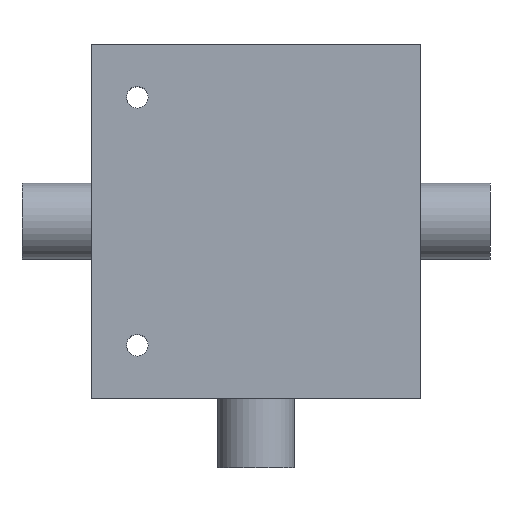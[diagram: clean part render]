
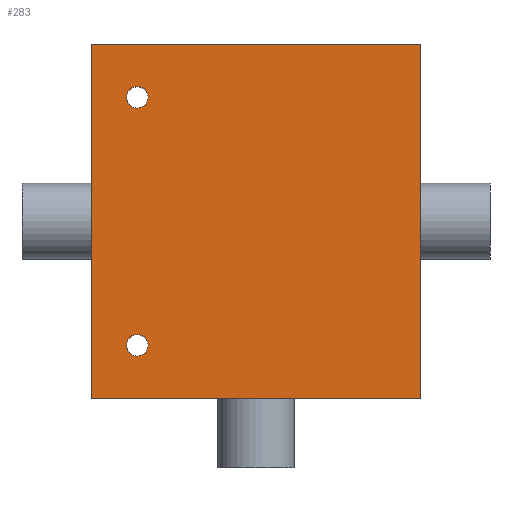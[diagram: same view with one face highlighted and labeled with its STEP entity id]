
A CAD part, top view. The second image highlights one B-rep face of the part: STEP entity #283.
In plain terms, the highlighted planar face has unit normal (0, 0, 1).
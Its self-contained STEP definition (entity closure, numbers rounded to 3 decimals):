
#24 = VERTEX_POINT('',#25);
#25 = CARTESIAN_POINT('',(-40.4,-43.45,29.9));
#32 = PLANE('',#33);
#33 = AXIS2_PLACEMENT_3D('',#34,#35,#36);
#34 = CARTESIAN_POINT('',(-40.4,-43.45,-29.9));
#35 = DIRECTION('',(1.,0.,0.));
#36 = DIRECTION('',(0.,0.,1.));
#44 = PLANE('',#45);
#45 = AXIS2_PLACEMENT_3D('',#46,#47,#48);
#46 = CARTESIAN_POINT('',(-40.4,-43.45,-29.9));
#47 = DIRECTION('',(0.,1.,0.));
#48 = DIRECTION('',(0.,0.,1.));
#85 = VERTEX_POINT('',#86);
#86 = CARTESIAN_POINT('',(-40.4,43.45,29.9));
#100 = PLANE('',#101);
#101 = AXIS2_PLACEMENT_3D('',#102,#103,#104);
#102 = CARTESIAN_POINT('',(-40.4,43.45,-29.9));
#103 = DIRECTION('',(0.,1.,0.));
#104 = DIRECTION('',(0.,0.,1.));
#112 = EDGE_CURVE('',#24,#85,#113,.T.);
#113 = SURFACE_CURVE('',#114,(#118,#125),.PCURVE_S1.);
#114 = LINE('',#115,#116);
#115 = CARTESIAN_POINT('',(-40.4,-43.45,29.9));
#116 = VECTOR('',#117,1.);
#117 = DIRECTION('',(0.,1.,0.));
#118 = PCURVE('',#32,#119);
#119 = DEFINITIONAL_REPRESENTATION('',(#120),#124);
#120 = LINE('',#121,#122);
#121 = CARTESIAN_POINT('',(59.8,0.));
#122 = VECTOR('',#123,1.);
#123 = DIRECTION('',(0.,-1.));
#124 = ( GEOMETRIC_REPRESENTATION_CONTEXT(2) 
PARAMETRIC_REPRESENTATION_CONTEXT() REPRESENTATION_CONTEXT('2D SPACE',''
  ) );
#125 = PCURVE('',#126,#131);
#126 = PLANE('',#127);
#127 = AXIS2_PLACEMENT_3D('',#128,#129,#130);
#128 = CARTESIAN_POINT('',(-40.4,-43.45,29.9));
#129 = DIRECTION('',(0.,0.,1.));
#130 = DIRECTION('',(1.,0.,0.));
#131 = DEFINITIONAL_REPRESENTATION('',(#132),#136);
#132 = LINE('',#133,#134);
#133 = CARTESIAN_POINT('',(0.,0.));
#134 = VECTOR('',#135,1.);
#135 = DIRECTION('',(0.,1.));
#136 = ( GEOMETRIC_REPRESENTATION_CONTEXT(2) 
PARAMETRIC_REPRESENTATION_CONTEXT() REPRESENTATION_CONTEXT('2D SPACE',''
  ) );
#200 = EDGE_CURVE('',#24,#201,#203,.T.);
#201 = VERTEX_POINT('',#202);
#202 = CARTESIAN_POINT('',(40.4,-43.45,29.9));
#203 = SURFACE_CURVE('',#204,(#208,#215),.PCURVE_S1.);
#204 = LINE('',#205,#206);
#205 = CARTESIAN_POINT('',(-40.4,-43.45,29.9));
#206 = VECTOR('',#207,1.);
#207 = DIRECTION('',(1.,0.,0.));
#208 = PCURVE('',#44,#209);
#209 = DEFINITIONAL_REPRESENTATION('',(#210),#214);
#210 = LINE('',#211,#212);
#211 = CARTESIAN_POINT('',(59.8,0.));
#212 = VECTOR('',#213,1.);
#213 = DIRECTION('',(0.,1.));
#214 = ( GEOMETRIC_REPRESENTATION_CONTEXT(2) 
PARAMETRIC_REPRESENTATION_CONTEXT() REPRESENTATION_CONTEXT('2D SPACE',''
  ) );
#215 = PCURVE('',#126,#216);
#216 = DEFINITIONAL_REPRESENTATION('',(#217),#221);
#217 = LINE('',#218,#219);
#218 = CARTESIAN_POINT('',(0.,0.));
#219 = VECTOR('',#220,1.);
#220 = DIRECTION('',(1.,0.));
#221 = ( GEOMETRIC_REPRESENTATION_CONTEXT(2) 
PARAMETRIC_REPRESENTATION_CONTEXT() REPRESENTATION_CONTEXT('2D SPACE',''
  ) );
#237 = PLANE('',#238);
#238 = AXIS2_PLACEMENT_3D('',#239,#240,#241);
#239 = CARTESIAN_POINT('',(40.4,-43.45,-29.9));
#240 = DIRECTION('',(1.,0.,0.));
#241 = DIRECTION('',(0.,0.,1.));
#283 = ADVANCED_FACE('',(#284,#332,#367),#126,.T.);
#284 = FACE_BOUND('',#285,.T.);
#285 = EDGE_LOOP('',(#286,#287,#288,#311));
#286 = ORIENTED_EDGE('',*,*,#112,.F.);
#287 = ORIENTED_EDGE('',*,*,#200,.T.);
#288 = ORIENTED_EDGE('',*,*,#289,.T.);
#289 = EDGE_CURVE('',#201,#290,#292,.T.);
#290 = VERTEX_POINT('',#291);
#291 = CARTESIAN_POINT('',(40.4,43.45,29.9));
#292 = SURFACE_CURVE('',#293,(#297,#304),.PCURVE_S1.);
#293 = LINE('',#294,#295);
#294 = CARTESIAN_POINT('',(40.4,-43.45,29.9));
#295 = VECTOR('',#296,1.);
#296 = DIRECTION('',(0.,1.,0.));
#297 = PCURVE('',#126,#298);
#298 = DEFINITIONAL_REPRESENTATION('',(#299),#303);
#299 = LINE('',#300,#301);
#300 = CARTESIAN_POINT('',(80.8,0.));
#301 = VECTOR('',#302,1.);
#302 = DIRECTION('',(0.,1.));
#303 = ( GEOMETRIC_REPRESENTATION_CONTEXT(2) 
PARAMETRIC_REPRESENTATION_CONTEXT() REPRESENTATION_CONTEXT('2D SPACE',''
  ) );
#304 = PCURVE('',#237,#305);
#305 = DEFINITIONAL_REPRESENTATION('',(#306),#310);
#306 = LINE('',#307,#308);
#307 = CARTESIAN_POINT('',(59.8,0.));
#308 = VECTOR('',#309,1.);
#309 = DIRECTION('',(0.,-1.));
#310 = ( GEOMETRIC_REPRESENTATION_CONTEXT(2) 
PARAMETRIC_REPRESENTATION_CONTEXT() REPRESENTATION_CONTEXT('2D SPACE',''
  ) );
#311 = ORIENTED_EDGE('',*,*,#312,.F.);
#312 = EDGE_CURVE('',#85,#290,#313,.T.);
#313 = SURFACE_CURVE('',#314,(#318,#325),.PCURVE_S1.);
#314 = LINE('',#315,#316);
#315 = CARTESIAN_POINT('',(-40.4,43.45,29.9));
#316 = VECTOR('',#317,1.);
#317 = DIRECTION('',(1.,0.,0.));
#318 = PCURVE('',#126,#319);
#319 = DEFINITIONAL_REPRESENTATION('',(#320),#324);
#320 = LINE('',#321,#322);
#321 = CARTESIAN_POINT('',(0.,86.9));
#322 = VECTOR('',#323,1.);
#323 = DIRECTION('',(1.,0.));
#324 = ( GEOMETRIC_REPRESENTATION_CONTEXT(2) 
PARAMETRIC_REPRESENTATION_CONTEXT() REPRESENTATION_CONTEXT('2D SPACE',''
  ) );
#325 = PCURVE('',#100,#326);
#326 = DEFINITIONAL_REPRESENTATION('',(#327),#331);
#327 = LINE('',#328,#329);
#328 = CARTESIAN_POINT('',(59.8,0.));
#329 = VECTOR('',#330,1.);
#330 = DIRECTION('',(0.,1.));
#331 = ( GEOMETRIC_REPRESENTATION_CONTEXT(2) 
PARAMETRIC_REPRESENTATION_CONTEXT() REPRESENTATION_CONTEXT('2D SPACE',''
  ) );
#332 = FACE_BOUND('',#333,.T.);
#333 = EDGE_LOOP('',(#334));
#334 = ORIENTED_EDGE('',*,*,#335,.T.);
#335 = EDGE_CURVE('',#336,#336,#338,.T.);
#336 = VERTEX_POINT('',#337);
#337 = CARTESIAN_POINT('',(-31.77,-30.415,29.9));
#338 = SURFACE_CURVE('',#339,(#344,#355),.PCURVE_S1.);
#339 = CIRCLE('',#340,2.65);
#340 = AXIS2_PLACEMENT_3D('',#341,#342,#343);
#341 = CARTESIAN_POINT('',(-29.12,-30.415,29.9));
#342 = DIRECTION('',(0.,0.,-1.));
#343 = DIRECTION('',(-1.,0.,0.));
#344 = PCURVE('',#126,#345);
#345 = DEFINITIONAL_REPRESENTATION('',(#346),#354);
#346 = ( BOUNDED_CURVE() B_SPLINE_CURVE(2,(#347,#348,#349,#350,#351,#352
,#353),.UNSPECIFIED.,.T.,.F.) B_SPLINE_CURVE_WITH_KNOTS((1,2,2,2,2,1),(
    -2.094,0.,2.094,4.189,6.283,
8.378),.UNSPECIFIED.) CURVE() GEOMETRIC_REPRESENTATION_ITEM() 
RATIONAL_B_SPLINE_CURVE((1.,0.5,1.,0.5,1.,0.5,1.)) REPRESENTATION_ITEM(
  '') );
#347 = CARTESIAN_POINT('',(8.63,13.035));
#348 = CARTESIAN_POINT('',(8.63,17.625));
#349 = CARTESIAN_POINT('',(12.605,15.33));
#350 = CARTESIAN_POINT('',(16.58,13.035));
#351 = CARTESIAN_POINT('',(12.605,10.74));
#352 = CARTESIAN_POINT('',(8.63,8.445));
#353 = CARTESIAN_POINT('',(8.63,13.035));
#354 = ( GEOMETRIC_REPRESENTATION_CONTEXT(2) 
PARAMETRIC_REPRESENTATION_CONTEXT() REPRESENTATION_CONTEXT('2D SPACE',''
  ) );
#355 = PCURVE('',#356,#361);
#356 = CYLINDRICAL_SURFACE('',#357,2.65);
#357 = AXIS2_PLACEMENT_3D('',#358,#359,#360);
#358 = CARTESIAN_POINT('',(-29.12,-30.415,29.9));
#359 = DIRECTION('',(0.,0.,-1.));
#360 = DIRECTION('',(-1.,0.,0.));
#361 = DEFINITIONAL_REPRESENTATION('',(#362),#366);
#362 = LINE('',#363,#364);
#363 = CARTESIAN_POINT('',(0.,0.));
#364 = VECTOR('',#365,1.);
#365 = DIRECTION('',(1.,0.));
#366 = ( GEOMETRIC_REPRESENTATION_CONTEXT(2) 
PARAMETRIC_REPRESENTATION_CONTEXT() REPRESENTATION_CONTEXT('2D SPACE',''
  ) );
#367 = FACE_BOUND('',#368,.T.);
#368 = EDGE_LOOP('',(#369));
#369 = ORIENTED_EDGE('',*,*,#370,.T.);
#370 = EDGE_CURVE('',#371,#371,#373,.T.);
#371 = VERTEX_POINT('',#372);
#372 = CARTESIAN_POINT('',(-31.77,30.415,29.9));
#373 = SURFACE_CURVE('',#374,(#379,#390),.PCURVE_S1.);
#374 = CIRCLE('',#375,2.65);
#375 = AXIS2_PLACEMENT_3D('',#376,#377,#378);
#376 = CARTESIAN_POINT('',(-29.12,30.415,29.9));
#377 = DIRECTION('',(0.,0.,-1.));
#378 = DIRECTION('',(-1.,0.,0.));
#379 = PCURVE('',#126,#380);
#380 = DEFINITIONAL_REPRESENTATION('',(#381),#389);
#381 = ( BOUNDED_CURVE() B_SPLINE_CURVE(2,(#382,#383,#384,#385,#386,#387
,#388),.UNSPECIFIED.,.T.,.F.) B_SPLINE_CURVE_WITH_KNOTS((1,2,2,2,2,1),(
    -2.094,0.,2.094,4.189,6.283,
8.378),.UNSPECIFIED.) CURVE() GEOMETRIC_REPRESENTATION_ITEM() 
RATIONAL_B_SPLINE_CURVE((1.,0.5,1.,0.5,1.,0.5,1.)) REPRESENTATION_ITEM(
  '') );
#382 = CARTESIAN_POINT('',(8.63,73.865));
#383 = CARTESIAN_POINT('',(8.63,78.455));
#384 = CARTESIAN_POINT('',(12.605,76.16));
#385 = CARTESIAN_POINT('',(16.58,73.865));
#386 = CARTESIAN_POINT('',(12.605,71.57));
#387 = CARTESIAN_POINT('',(8.63,69.275));
#388 = CARTESIAN_POINT('',(8.63,73.865));
#389 = ( GEOMETRIC_REPRESENTATION_CONTEXT(2) 
PARAMETRIC_REPRESENTATION_CONTEXT() REPRESENTATION_CONTEXT('2D SPACE',''
  ) );
#390 = PCURVE('',#391,#396);
#391 = CYLINDRICAL_SURFACE('',#392,2.65);
#392 = AXIS2_PLACEMENT_3D('',#393,#394,#395);
#393 = CARTESIAN_POINT('',(-29.12,30.415,29.9));
#394 = DIRECTION('',(0.,0.,-1.));
#395 = DIRECTION('',(-1.,0.,0.));
#396 = DEFINITIONAL_REPRESENTATION('',(#397),#401);
#397 = LINE('',#398,#399);
#398 = CARTESIAN_POINT('',(0.,0.));
#399 = VECTOR('',#400,1.);
#400 = DIRECTION('',(1.,0.));
#401 = ( GEOMETRIC_REPRESENTATION_CONTEXT(2) 
PARAMETRIC_REPRESENTATION_CONTEXT() REPRESENTATION_CONTEXT('2D SPACE',''
  ) );
